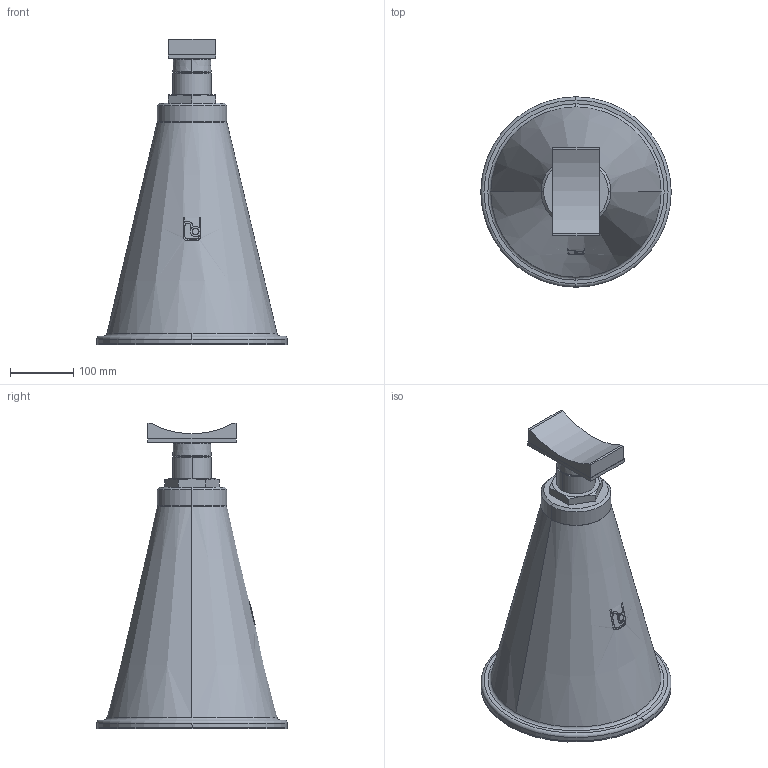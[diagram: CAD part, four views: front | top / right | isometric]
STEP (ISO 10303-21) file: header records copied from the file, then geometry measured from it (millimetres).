
FILE_DESCRIPTION(('STEP AP214'),'1');
FILE_NAME('RSRFB_DN250.stp','2018-06-26T07:29:19',(' '),(' '),'Spatial InterOp 3D',' ',' ');
FILE_SCHEMA(('automotive_design'));
Length unit declared in the file: millimetre
Products named in the file (6): 3; 5; 2; 1; 4; 6
Bounding box: 300 x 300 x 482.12 mm (x, y, z)
Volume: 12397587 mm3; surface area: 596431.1 mm2
Topology: 6 solids, 7 shells, 118 faces, 278 edges, 178 vertices
Faces by surface type: plane 51, cylinder 34, cone 25, torus 8
Entity records: 4730 total; most frequent: CARTESIAN_POINT 931, DIRECTION 589, ORIENTED_EDGE 556, EDGE_CURVE 278, AXIS2_PLACEMENT_3D 228, VERTEX_POINT 178, LINE 133, VECTOR 133
